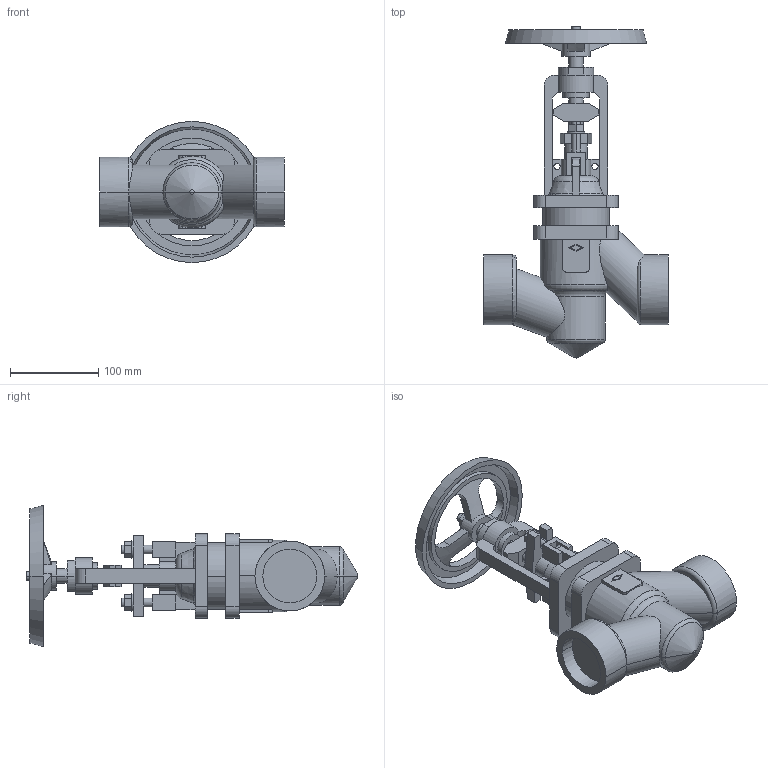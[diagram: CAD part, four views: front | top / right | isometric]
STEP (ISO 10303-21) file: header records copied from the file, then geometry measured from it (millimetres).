
FILE_DESCRIPTION(('OneSpaceDesigner STEP Export'),'2;1');
FILE_NAME('c000004276.stp','2010-05-04T11:19:43',(''),(''),'OneSpace Designer STEP processor for AP214 (Solid Model)','OneSpace Modeling 15.50B 03-Nov-2007 (C) CoCreate Software GmbH','');
FILE_SCHEMA(('AUTOMOTIVE_DESIGN { 1 0 10303 214 1 1 1 1 }'));
Length unit declared in the file: millimetre
Products named in the file (1): 1
Bounding box: 209 x 376.13 x 160 mm (x, y, z)
Volume: 1758135.4 mm3; surface area: 210688.1 mm2
Topology: 1 solids, 1 shells, 285 faces, 750 edges, 489 vertices
Faces by surface type: plane 150, cylinder 91, cone 24, torus 18, sphere 2
Entity records: 11559 total; most frequent: CARTESIAN_POINT 2538, ORIENTED_EDGE 1500, DIRECTION 1264, EDGE_CURVE 750, VERTEX_POINT 489, AXIS2_PLACEMENT_3D 422, VECTOR 420, LINE 420
